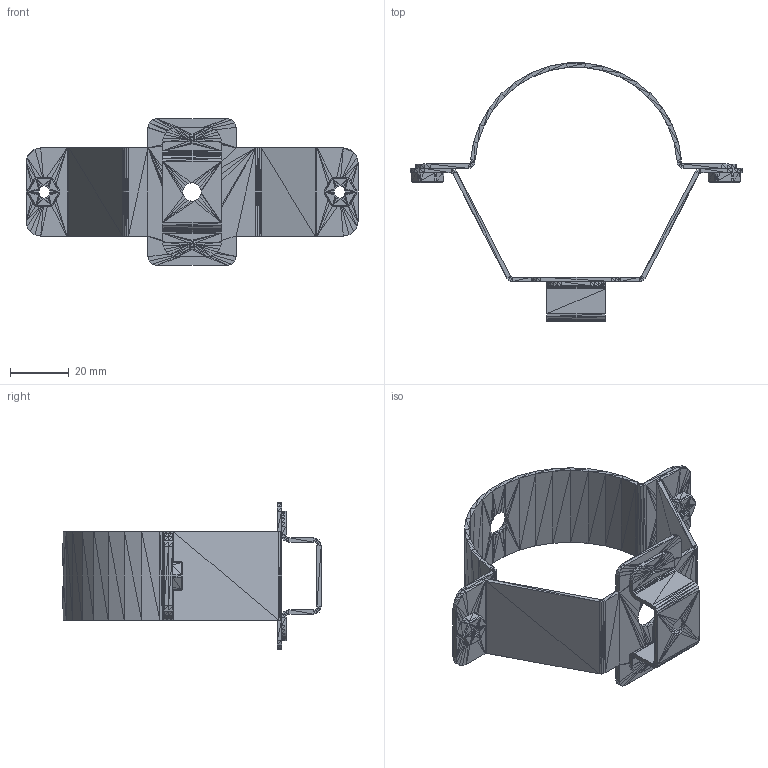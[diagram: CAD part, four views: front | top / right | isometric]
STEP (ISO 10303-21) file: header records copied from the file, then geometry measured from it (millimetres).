
FILE_DESCRIPTION((''),'2;1');
FILE_NAME('037043', '2025-09-03T07:36:27', (''), (''), 'ImageToStl.com STEP Converter','', '');
FILE_SCHEMA(('AUTOMOTIVE_DESIGN_CC2'));
Length unit declared in the file: metre
Products named in the file (1): product0
Bounding box: 113 x 88 x 50 mm (x, y, z)
Surface area: 23382.1 mm2 (no closed solid volume)
Topology: 0 solids, 2386 shells, 2386 faces, 7158 edges, 1178 vertices
Faces by surface type: plane 2386
Entity records: 54876 total; most frequent: DIRECTION 11932, ORIENTED_EDGE 7158, EDGE_CURVE 7158, LINE 7158, VECTOR 7158, AXIS2_PLACEMENT_3D 2387, FACE_SURFACE 2386, PLANE 2386
